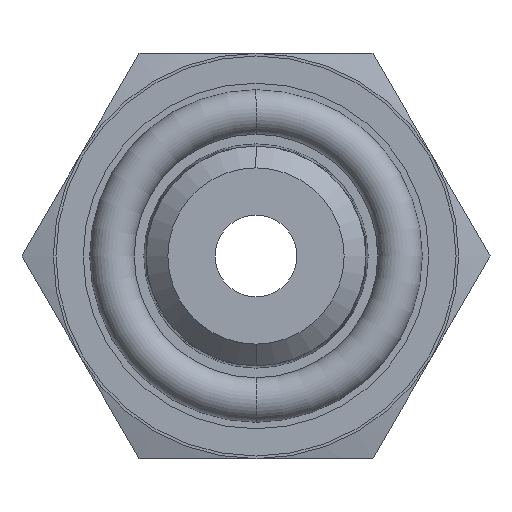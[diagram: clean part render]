
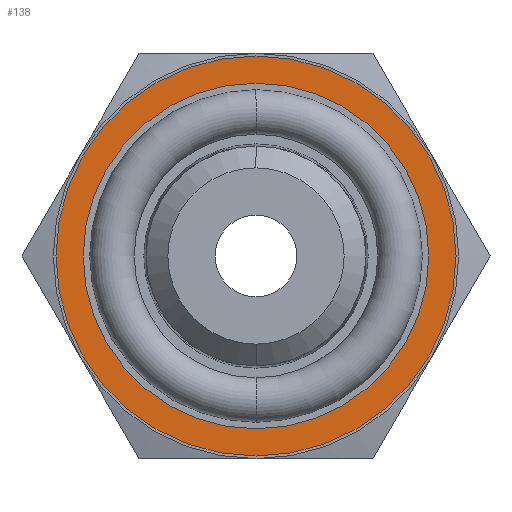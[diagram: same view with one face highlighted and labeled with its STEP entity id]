
A CAD part, left-side view. The second image highlights one B-rep face of the part: STEP entity #138.
In plain terms, the highlighted planar face has unit normal (-1, 0, 0).
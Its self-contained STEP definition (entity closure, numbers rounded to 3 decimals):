
#58 = EDGE_LOOP ( 'NONE', ( #59, #61 ) ) ;
#59 = ORIENTED_EDGE ( 'NONE', *, *, #60, .F. ) ;
#60 = EDGE_CURVE ( 'NONE', #301, #298, #780, .T. ) ;
#61 = ORIENTED_EDGE ( 'NONE', *, *, #300, .F. ) ;
#62 = EDGE_LOOP ( 'NONE', ( #63, #536 ) ) ;
#63 = ORIENTED_EDGE ( 'NONE', *, *, #64, .T. ) ;
#64 = EDGE_CURVE ( 'NONE', #273, #272, #775, .T. ) ;
#138 = ADVANCED_FACE ( 'NONE', ( #1064, #1063 ), #1075, .T. ) ;
#271 = EDGE_CURVE ( 'NONE', #272, #273, #1164, .T. ) ;
#272 = VERTEX_POINT ( 'NONE', #1159 ) ;
#273 = VERTEX_POINT ( 'NONE', #1158 ) ;
#298 = VERTEX_POINT ( 'NONE', #1314 ) ;
#300 = EDGE_CURVE ( 'NONE', #298, #301, #1313, .T. ) ;
#301 = VERTEX_POINT ( 'NONE', #1308 ) ;
#536 = ORIENTED_EDGE ( 'NONE', *, *, #271, .T. ) ;
#771 = DIRECTION ( 'NONE',  ( 0., 0., 1. ) ) ;
#772 = DIRECTION ( 'NONE',  ( -1., 0., 0. ) ) ;
#773 = CARTESIAN_POINT ( 'NONE',  ( -4.5, 0., 0. ) ) ;
#774 = AXIS2_PLACEMENT_3D ( 'NONE', #773, #772, #771 ) ;
#775 = CIRCLE ( 'NONE', #774, 11.75 ) ;
#776 = DIRECTION ( 'NONE',  ( 0., 0., 1. ) ) ;
#777 = DIRECTION ( 'NONE',  ( -1., 0., 0. ) ) ;
#778 = CARTESIAN_POINT ( 'NONE',  ( -4.5, 0., 0. ) ) ;
#779 = AXIS2_PLACEMENT_3D ( 'NONE', #778, #777, #776 ) ;
#780 = CIRCLE ( 'NONE', #779, 10.15 ) ;
#964 = DIRECTION ( 'NONE',  ( 0., 0., 1. ) ) ;
#965 = DIRECTION ( 'NONE',  ( -1., 0., 0. ) ) ;
#966 = CARTESIAN_POINT ( 'NONE',  ( -4.5, 0., 0. ) ) ;
#1062 = AXIS2_PLACEMENT_3D ( 'NONE', #966, #965, #964 ) ;
#1063 = FACE_OUTER_BOUND ( 'NONE', #62, .T. ) ;
#1064 = FACE_BOUND ( 'NONE', #58, .T. ) ;
#1075 = PLANE ( 'NONE',  #1062 ) ;
#1158 = CARTESIAN_POINT ( 'NONE',  ( -4.5, 0., -11.75 ) ) ;
#1159 = CARTESIAN_POINT ( 'NONE',  ( -4.5, 0., 11.75 ) ) ;
#1160 = DIRECTION ( 'NONE',  ( 0., 0., 1. ) ) ;
#1161 = DIRECTION ( 'NONE',  ( -1., 0., 0. ) ) ;
#1162 = CARTESIAN_POINT ( 'NONE',  ( -4.5, 0., 0. ) ) ;
#1163 = AXIS2_PLACEMENT_3D ( 'NONE', #1162, #1161, #1160 ) ;
#1164 = CIRCLE ( 'NONE', #1163, 11.75 ) ;
#1308 = CARTESIAN_POINT ( 'NONE',  ( -4.5, 0., 10.15 ) ) ;
#1309 = DIRECTION ( 'NONE',  ( 0., 0., 1. ) ) ;
#1310 = DIRECTION ( 'NONE',  ( -1., 0., 0. ) ) ;
#1311 = CARTESIAN_POINT ( 'NONE',  ( -4.5, 0., 0. ) ) ;
#1312 = AXIS2_PLACEMENT_3D ( 'NONE', #1311, #1310, #1309 ) ;
#1313 = CIRCLE ( 'NONE', #1312, 10.15 ) ;
#1314 = CARTESIAN_POINT ( 'NONE',  ( -4.5, 0., -10.15 ) ) ;
